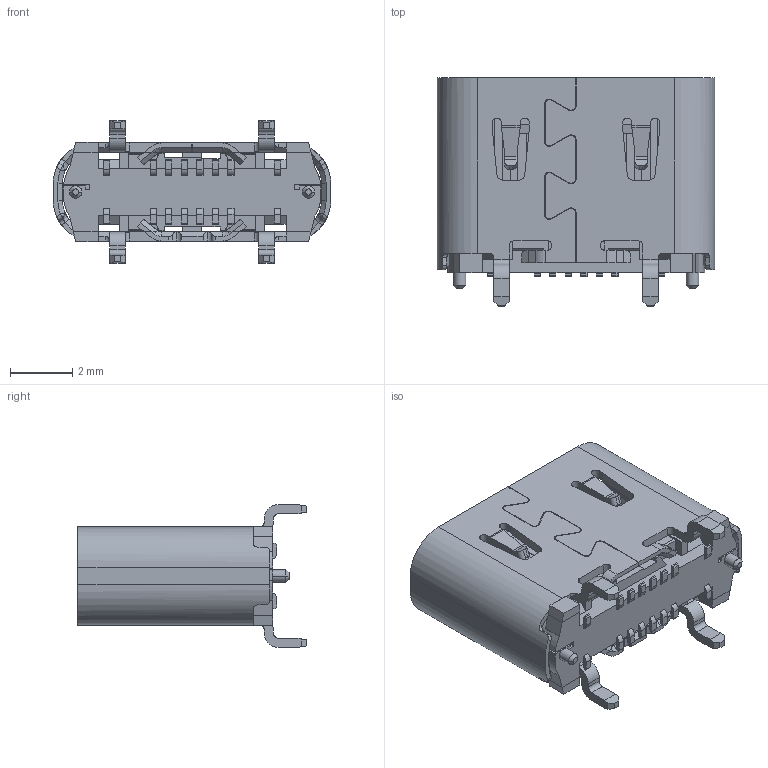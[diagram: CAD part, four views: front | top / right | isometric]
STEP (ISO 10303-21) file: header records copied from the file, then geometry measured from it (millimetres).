
FILE_DESCRIPTION (( 'STEP AP214' ), '1' );
FILE_NAME ('10168207-00011LF.STEP', '2025-03-26T23:06:21', ( '' ), ( '' ), 'SwSTEP 2.0', 'SolidWorks 2021', '' );
FILE_SCHEMA (( 'AUTOMOTIVE_DESIGN' ));
Length unit declared in the file: millimetre
Products named in the file (1): 10168207-00011LF
Bounding box: 8.94 x 7.35 x 4.6 mm (x, y, z)
Volume: 81.6 mm3; surface area: 447.3 mm2
Topology: 36 solids, 40 shells, 1178 faces, 3272 edges, 2184 vertices
Faces by surface type: plane 967, cylinder 175, cone 28, bspline 8
Entity records: 38116 total; most frequent: CARTESIAN_POINT 7467, ORIENTED_EDGE 6528, DIRECTION 5782, EDGE_CURVE 3264, LINE 2704, VECTOR 2704, VERTEX_POINT 2182, AXIS2_PLACEMENT_3D 1539
